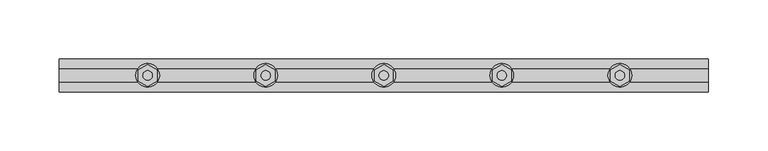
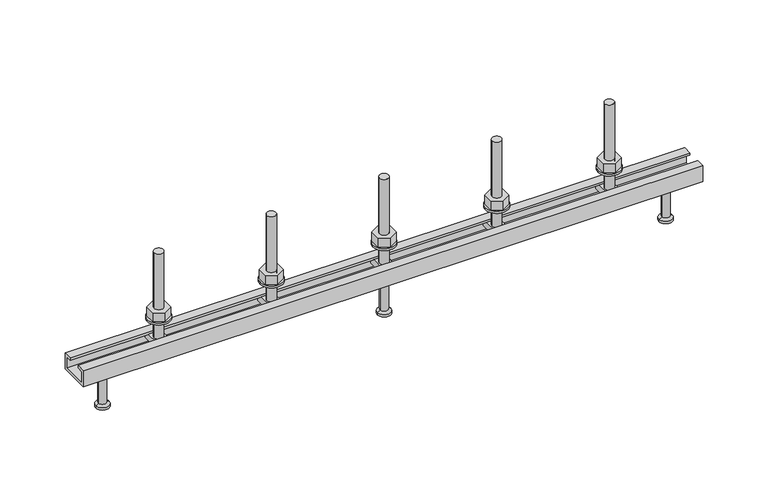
"""IFC4 building model written with IfcOpenShell, lengths in millimetres: fastener geometry, JTA-K JORDAHL® AnchorChannels : JTA-K L=550 mm."""

from ifc_helpers import new_model, si_unit, point, frame, frame_2d, origin, place, context, project, spatial, polyline, circle_curve, trimmed, segment, composite_curve, outline, extrude, source, transform, mapped, element, save
from ifc_brep_helpers import plane_surface, cylinder_surface, revolved_surface, advanced_brep


def fastener_40bd0cf4(model_context):
    return source(origin(), model_context, "Body", "SolidModel", [
        extrude(outline(polyline([(375.0, 9.2376043), (383.0, 4.6188022), (383.0, -4.6188022), (375.0, -9.2376043), (367.0, -4.6188022), (367.0, 4.6188022), (375.0, 9.2376043)]), holes=[composite_curve([segment(trimmed(circle_curve(frame_2d((375.0, 0.0)), 4.0), [point((371.0, 0.0))], [point((379.0, 0.0))], True, "CARTESIAN"), True, "CONTINUOUS"), segment(trimmed(circle_curve(frame_2d((375.0, 0.0)), 4.0), [point((379.0, 0.0))], [point((371.0, 0.0))], True, "CARTESIAN"), True, "CONTINUOUS")], self_intersect=False)]), frame((0.0, 0.0, 17.0), z_axis=(0.0, 0.0, 1.0), x_axis=(1.0, 0.0, 0.0)), (0.0, 0.0, 1.0), 8.4),
        extrude(outline(composite_curve([segment(trimmed(circle_curve(frame_2d((375.0, 0.0)), 10.0), [point((365.0, 0.0))], [point((385.0, 0.0))], False, "CARTESIAN"), True, "CONTINUOUS"), segment(trimmed(circle_curve(frame_2d((375.0, 0.0)), 10.0), [point((385.0, 0.0))], [point((365.0, 0.0))], False, "CARTESIAN"), True, "CONTINUOUS")], self_intersect=False), holes=[composite_curve([segment(trimmed(circle_curve(frame_2d((375.0, 0.0)), 5.25), [point((369.75, 0.0))], [point((380.25, 0.0))], True, "CARTESIAN"), True, "CONTINUOUS"), segment(trimmed(circle_curve(frame_2d((375.0, 0.0)), 5.25), [point((380.25, 0.0))], [point((369.75, 0.0))], True, "CARTESIAN"), True, "CONTINUOUS")], self_intersect=False)]), frame((0.0, 0.0, 15.0), z_axis=(0.0, 0.0, 1.0), x_axis=(1.0, 0.0, 0.0)), (0.0, 0.0, 1.0), 2.0),
        extrude(outline(polyline([(275.0, 9.2376043), (283.0, 4.6188022), (283.0, -4.6188022), (275.0, -9.2376043), (267.0, -4.6188022), (267.0, 4.6188022), (275.0, 9.2376043)]), holes=[composite_curve([segment(trimmed(circle_curve(frame_2d((275.0, 0.0)), 4.0), [point((271.0, 0.0))], [point((279.0, 0.0))], True, "CARTESIAN"), True, "CONTINUOUS"), segment(trimmed(circle_curve(frame_2d((275.0, 0.0)), 4.0), [point((279.0, 0.0))], [point((271.0, 0.0))], True, "CARTESIAN"), True, "CONTINUOUS")], self_intersect=False)]), frame((0.0, 0.0, 17.0), z_axis=(0.0, 0.0, 1.0), x_axis=(1.0, 0.0, 0.0)), (0.0, 0.0, 1.0), 8.4),
        extrude(outline(composite_curve([segment(trimmed(circle_curve(frame_2d((275.0, 0.0)), 10.0), [point((265.0, 0.0))], [point((285.0, 0.0))], False, "CARTESIAN"), True, "CONTINUOUS"), segment(trimmed(circle_curve(frame_2d((275.0, 0.0)), 10.0), [point((285.0, 0.0))], [point((265.0, 0.0))], False, "CARTESIAN"), True, "CONTINUOUS")], self_intersect=False), holes=[composite_curve([segment(trimmed(circle_curve(frame_2d((275.0, 0.0)), 5.25), [point((269.75, 0.0))], [point((280.25, 0.0))], True, "CARTESIAN"), True, "CONTINUOUS"), segment(trimmed(circle_curve(frame_2d((275.0, 0.0)), 5.25), [point((280.25, 0.0))], [point((269.75, 0.0))], True, "CARTESIAN"), True, "CONTINUOUS")], self_intersect=False)]), frame((0.0, 0.0, 15.0), z_axis=(0.0, 0.0, 1.0), x_axis=(1.0, 0.0, 0.0)), (0.0, 0.0, 1.0), 2.0),
        extrude(outline(polyline([(175.0, 9.2376043), (183.0, 4.6188022), (183.0, -4.6188022), (175.0, -9.2376043), (167.0, -4.6188022), (167.0, 4.6188022), (175.0, 9.2376043)]), holes=[composite_curve([segment(trimmed(circle_curve(frame_2d((175.0, 0.0)), 4.0), [point((171.0, 0.0))], [point((179.0, 0.0))], True, "CARTESIAN"), True, "CONTINUOUS"), segment(trimmed(circle_curve(frame_2d((175.0, 0.0)), 4.0), [point((179.0, 0.0))], [point((171.0, 0.0))], True, "CARTESIAN"), True, "CONTINUOUS")], self_intersect=False)]), frame((0.0, 0.0, 17.0), z_axis=(0.0, 0.0, 1.0), x_axis=(1.0, 0.0, 0.0)), (0.0, 0.0, 1.0), 8.4),
        extrude(outline(composite_curve([segment(trimmed(circle_curve(frame_2d((175.0, 0.0)), 10.0), [point((165.0, 0.0))], [point((185.0, 0.0))], False, "CARTESIAN"), True, "CONTINUOUS"), segment(trimmed(circle_curve(frame_2d((175.0, 0.0)), 10.0), [point((185.0, 0.0))], [point((165.0, 0.0))], False, "CARTESIAN"), True, "CONTINUOUS")], self_intersect=False), holes=[composite_curve([segment(trimmed(circle_curve(frame_2d((175.0, 0.0)), 5.25), [point((169.75, 0.0))], [point((180.25, 0.0))], True, "CARTESIAN"), True, "CONTINUOUS"), segment(trimmed(circle_curve(frame_2d((175.0, 0.0)), 5.25), [point((180.25, 0.0))], [point((169.75, 0.0))], True, "CARTESIAN"), True, "CONTINUOUS")], self_intersect=False)]), frame((0.0, 0.0, 15.0), z_axis=(0.0, 0.0, 1.0), x_axis=(1.0, 0.0, 0.0)), (0.0, 0.0, 1.0), 2.0),
        advanced_brep(
        [(380.5, 11.0, -2.3), (380.5, -11.0, -2.3), (380.5, -11.0, -8.3), (380.5, 11.0, -8.3), (369.5, 11.0, -2.3), (369.5, 11.0, -8.3), (369.5, -11.0, -8.3), (369.5, -11.0, -2.3), (379.0, 0.0, -2.3), (371.0, 0.0, -2.3), (371.0, 0.0, 77.7), (379.0, 0.0, 77.7)],
        [
            (0, 1),
            (1, 2),
            (2, 3),
            (3, 0),
            (4, 5),
            (5, 6),
            (6, 7),
            (7, 4),
            (0, 4),
            (7, 1),
            (8, 9, circle_curve(frame((375.0, 0.0, -2.3), z_axis=(0.0, 0.0, -1.0), x_axis=(1.0, 0.0, 0.0)), 4.0)),
            (9, 8, circle_curve(frame((375.0, 0.0, -2.3), z_axis=(0.0, 0.0, -1.0), x_axis=(1.0, 0.0, 0.0)), 4.0)),
            (6, 2),
            (5, 3),
            (10, 11, circle_curve(frame((375.0, 0.0, 77.7), z_axis=(0.0, 0.0, 1.0), x_axis=(1.0, 0.0, 0.0)), 4.0)),
            (11, 10, circle_curve(frame((375.0, 0.0, 77.7), z_axis=(0.0, 0.0, 1.0), x_axis=(1.0, 0.0, 0.0)), 4.0)),
            (10, 9),
            (8, 11),
        ],
        [
            plane_surface(frame((380.5, -11.0, -2.3), z_axis=(1.0, 0.0, 0.0), x_axis=(0.0, -1.0, 0.0))),
            plane_surface(frame((369.5, -11.0, -2.3), z_axis=(-1.0, 0.0, 0.0), x_axis=(0.0, 1.0, 0.0))),
            plane_surface(frame((380.5, 11.0, -2.3), z_axis=(0.0, 0.0, 1.0), x_axis=(-1.0, 0.0, 0.0))),
            plane_surface(frame((380.5, -11.0, -2.3), z_axis=(0.0, -1.0, 0.0), x_axis=(-1.0, 0.0, 0.0))),
            plane_surface(frame((380.5, -11.0, -8.3), z_axis=(0.0, 0.0, -1.0), x_axis=(-1.0, 0.0, 0.0))),
            plane_surface(frame((380.5, 11.0, -8.3), z_axis=(0.0, 1.0, 0.0), x_axis=(-1.0, 0.0, 0.0))),
            plane_surface(frame((379.0, 0.0, 77.7), z_axis=(0.0, 0.0, 1.0), x_axis=(0.0, 1.0, 0.0))),
            cylinder_surface(frame((375.0, 0.0, -2.3), z_axis=(0.0, 0.0, 1.0), x_axis=(1.0, 0.0, 0.0)), 4.0),
        ],
        [
            (0, [[1, 2, 3, 4]]),
            (1, [[5, 6, 7, 8]]),
            (2, [[-1, 9, -8, 10], [11, 12]]),
            (3, [[-2, -10, -7, 13]]),
            (4, [[-3, -13, -6, 14]]),
            (5, [[-4, -14, -5, -9]]),
            (6, [[15, 16]]),
            (7, [[-15, 17, -11, 18]]),
            (7, [[-16, -18, -12, -17]]),
        ],
    ),
        advanced_brep(
        [(280.5, 11.0, -2.3), (280.5, -11.0, -2.3), (280.5, -11.0, -8.3), (280.5, 11.0, -8.3), (269.5, 11.0, -2.3), (269.5, 11.0, -8.3), (269.5, -11.0, -8.3), (269.5, -11.0, -2.3), (279.0, 0.0, -2.3), (271.0, 0.0, -2.3), (271.0, 0.0, 77.7), (279.0, 0.0, 77.7)],
        [
            (0, 1),
            (1, 2),
            (2, 3),
            (3, 0),
            (4, 5),
            (5, 6),
            (6, 7),
            (7, 4),
            (0, 4),
            (7, 1),
            (8, 9, circle_curve(frame((275.0, 0.0, -2.3), z_axis=(0.0, 0.0, -1.0), x_axis=(1.0, 0.0, 0.0)), 4.0)),
            (9, 8, circle_curve(frame((275.0, 0.0, -2.3), z_axis=(0.0, 0.0, -1.0), x_axis=(1.0, 0.0, 0.0)), 4.0)),
            (6, 2),
            (5, 3),
            (10, 11, circle_curve(frame((275.0, 0.0, 77.7), z_axis=(0.0, 0.0, 1.0), x_axis=(1.0, 0.0, 0.0)), 4.0)),
            (11, 10, circle_curve(frame((275.0, 0.0, 77.7), z_axis=(0.0, 0.0, 1.0), x_axis=(1.0, 0.0, 0.0)), 4.0)),
            (10, 9),
            (8, 11),
        ],
        [
            plane_surface(frame((280.5, -11.0, -2.3), z_axis=(1.0, 0.0, 0.0), x_axis=(0.0, -1.0, 0.0))),
            plane_surface(frame((269.5, -11.0, -2.3), z_axis=(-1.0, 0.0, 0.0), x_axis=(0.0, 1.0, 0.0))),
            plane_surface(frame((280.5, 11.0, -2.3), z_axis=(0.0, 0.0, 1.0), x_axis=(-1.0, 0.0, 0.0))),
            plane_surface(frame((280.5, -11.0, -2.3), z_axis=(0.0, -1.0, 0.0), x_axis=(-1.0, 0.0, 0.0))),
            plane_surface(frame((280.5, -11.0, -8.3), z_axis=(0.0, 0.0, -1.0), x_axis=(-1.0, 0.0, 0.0))),
            plane_surface(frame((280.5, 11.0, -8.3), z_axis=(0.0, 1.0, 0.0), x_axis=(-1.0, 0.0, 0.0))),
            plane_surface(frame((279.0, 0.0, 77.7), z_axis=(0.0, 0.0, 1.0), x_axis=(0.0, 1.0, 0.0))),
            cylinder_surface(frame((275.0, 0.0, -2.3), z_axis=(0.0, 0.0, 1.0), x_axis=(1.0, 0.0, 0.0)), 4.0),
        ],
        [
            (0, [[1, 2, 3, 4]]),
            (1, [[5, 6, 7, 8]]),
            (2, [[-1, 9, -8, 10], [11, 12]]),
            (3, [[-2, -10, -7, 13]]),
            (4, [[-3, -13, -6, 14]]),
            (5, [[-4, -14, -5, -9]]),
            (6, [[15, 16]]),
            (7, [[-15, 17, -11, 18]]),
            (7, [[-16, -18, -12, -17]]),
        ],
    ),
        advanced_brep(
        [(180.5, 11.0, -2.3), (180.5, -11.0, -2.3), (180.5, -11.0, -8.3), (180.5, 11.0, -8.3), (169.5, 11.0, -2.3), (169.5, 11.0, -8.3), (169.5, -11.0, -8.3), (169.5, -11.0, -2.3), (179.0, 0.0, -2.3), (171.0, 0.0, -2.3), (171.0, 0.0, 77.7), (179.0, 0.0, 77.7)],
        [
            (0, 1),
            (1, 2),
            (2, 3),
            (3, 0),
            (4, 5),
            (5, 6),
            (6, 7),
            (7, 4),
            (0, 4),
            (7, 1),
            (8, 9, circle_curve(frame((175.0, 0.0, -2.3), z_axis=(0.0, 0.0, -1.0), x_axis=(1.0, 0.0, 0.0)), 4.0)),
            (9, 8, circle_curve(frame((175.0, 0.0, -2.3), z_axis=(0.0, 0.0, -1.0), x_axis=(1.0, 0.0, 0.0)), 4.0)),
            (6, 2),
            (5, 3),
            (10, 11, circle_curve(frame((175.0, 0.0, 77.7), z_axis=(0.0, 0.0, 1.0), x_axis=(1.0, 0.0, 0.0)), 4.0)),
            (11, 10, circle_curve(frame((175.0, 0.0, 77.7), z_axis=(0.0, 0.0, 1.0), x_axis=(1.0, 0.0, 0.0)), 4.0)),
            (10, 9),
            (8, 11),
        ],
        [
            plane_surface(frame((180.5, -11.0, -2.3), z_axis=(1.0, 0.0, 0.0), x_axis=(0.0, -1.0, 0.0))),
            plane_surface(frame((169.5, -11.0, -2.3), z_axis=(-1.0, 0.0, 0.0), x_axis=(0.0, 1.0, 0.0))),
            plane_surface(frame((180.5, 11.0, -2.3), z_axis=(0.0, 0.0, 1.0), x_axis=(-1.0, 0.0, 0.0))),
            plane_surface(frame((180.5, -11.0, -2.3), z_axis=(0.0, -1.0, 0.0), x_axis=(-1.0, 0.0, 0.0))),
            plane_surface(frame((180.5, -11.0, -8.3), z_axis=(0.0, 0.0, -1.0), x_axis=(-1.0, 0.0, 0.0))),
            plane_surface(frame((180.5, 11.0, -8.3), z_axis=(0.0, 1.0, 0.0), x_axis=(-1.0, 0.0, 0.0))),
            plane_surface(frame((179.0, 0.0, 77.7), z_axis=(0.0, 0.0, 1.0), x_axis=(0.0, 1.0, 0.0))),
            cylinder_surface(frame((175.0, 0.0, -2.3), z_axis=(0.0, 0.0, 1.0), x_axis=(1.0, 0.0, 0.0)), 4.0),
        ],
        [
            (0, [[1, 2, 3, 4]]),
            (1, [[5, 6, 7, 8]]),
            (2, [[-1, 9, -8, 10], [11, 12]]),
            (3, [[-2, -10, -7, 13]]),
            (4, [[-3, -13, -6, 14]]),
            (5, [[-4, -14, -5, -9]]),
            (6, [[15, 16]]),
            (7, [[-15, 17, -11, 18]]),
            (7, [[-16, -18, -12, -17]]),
        ],
    ),
        advanced_brep(
        [(275.0, 0.0, -15.0), (285.5, 0.0, -15.0), (264.5, 0.0, -15.0), (269.0, 0.0, -50.0), (281.0, 0.0, -50.0), (275.0, 0.0, -50.0), (269.0, 0.0, -48.0), (281.0, 0.0, -48.0), (271.5, 0.0, -46.5566243), (278.5, 0.0, -46.5566243), (271.5, 0.0, -17.5), (278.5, 0.0, -17.5)],
        [
            (0, 1),
            (1, 2, circle_curve(frame((275.0, 0.0, -15.0), z_axis=(0.0, 0.0, 1.0), x_axis=(1.0, 0.0, 0.0)), 10.5)),
            (2, 0),
            (2, 1, circle_curve(frame((275.0, 0.0, -15.0), z_axis=(0.0, 0.0, 1.0), x_axis=(1.0, 0.0, 0.0)), 10.5)),
            (3, 4, circle_curve(frame((275.0, 0.0, -50.0), z_axis=(0.0, 0.0, -1.0), x_axis=(1.0, 0.0, 0.0)), 6.0)),
            (4, 5),
            (5, 3),
            (4, 3, circle_curve(frame((275.0, 0.0, -50.0), z_axis=(0.0, 0.0, -1.0), x_axis=(1.0, 0.0, 0.0)), 6.0)),
            (6, 7, circle_curve(frame((275.0, 0.0, -48.0), z_axis=(0.0, 0.0, -1.0), x_axis=(1.0, 0.0, 0.0)), 6.0)),
            (7, 4),
            (3, 6),
            (7, 6, circle_curve(frame((275.0, 0.0, -48.0), z_axis=(0.0, 0.0, -1.0), x_axis=(1.0, 0.0, 0.0)), 6.0)),
            (8, 9, circle_curve(frame((275.0, 0.0, -46.5566243), z_axis=(0.0, 0.0, -1.0), x_axis=(1.0, 0.0, 0.0)), 3.5)),
            (9, 7),
            (6, 8),
            (9, 8, circle_curve(frame((275.0, 0.0, -46.5566243), z_axis=(0.0, 0.0, -1.0), x_axis=(1.0, 0.0, 0.0)), 3.5)),
            (10, 11, circle_curve(frame((275.0, 0.0, -17.5), z_axis=(0.0, 0.0, -1.0), x_axis=(1.0, 0.0, 0.0)), 3.5)),
            (11, 9),
            (8, 10),
            (11, 10, circle_curve(frame((275.0, 0.0, -17.5), z_axis=(0.0, 0.0, -1.0), x_axis=(1.0, 0.0, 0.0)), 3.5)),
            (1, 11),
            (10, 2),
        ],
        [
            plane_surface(frame((275.0, 0.0, -15.0), z_axis=(0.0, 0.0, 1.0), x_axis=(1.0, 0.0, 0.0))),
            plane_surface(frame((275.0, 0.0, -50.0), z_axis=(0.0, 0.0, -1.0), x_axis=(1.0, 0.0, 0.0))),
            cylinder_surface(frame((275.0, 0.0, 2249.3150031), z_axis=(0.0, 0.0, 1.0), x_axis=(1.0, 0.0, 0.0)), 6.0),
            revolved_surface(polyline([(281.0, 0.0, -48.0), (278.5, 0.0, -46.5566243)]), (275.0, 0.0, 2249.3150031), (0.0, 0.0, 1.0)),
            cylinder_surface(frame((275.0, 0.0, 2249.3150031), z_axis=(0.0, 0.0, 1.0), x_axis=(1.0, 0.0, 0.0)), 3.5),
            revolved_surface(polyline([(278.5, 0.0, -17.5), (285.5, 0.0, -15.0)]), (275.0, 0.0, 2249.3150031), (0.0, 0.0, 1.0)),
        ],
        [
            (0, [[1, 2, 3]]),
            (0, [[-3, 4, -1]]),
            (1, [[5, 6, 7]]),
            (1, [[8, -7, -6]]),
            (2, [[9, 10, -5, 11]]),
            (2, [[12, -11, -8, -10]]),
            (3, [[13, 14, -9, 15]]),
            (3, [[16, -15, -12, -14]]),
            (4, [[17, 18, -13, 19]]),
            (4, [[20, -19, -16, -18]]),
            (5, [[-2, 21, -17, 22]]),
            (5, [[-4, -22, -20, -21]]),
        ],
    ),
        extrude(outline(polyline([(475.0, 9.2376043), (483.0, 4.6188022), (483.0, -4.6188022), (475.0, -9.2376043), (467.0, -4.6188022), (467.0, 4.6188022), (475.0, 9.2376043)]), holes=[composite_curve([segment(trimmed(circle_curve(frame_2d((475.0, 0.0)), 4.0), [point((471.0, 0.0))], [point((479.0, 0.0))], True, "CARTESIAN"), True, "CONTINUOUS"), segment(trimmed(circle_curve(frame_2d((475.0, 0.0)), 4.0), [point((479.0, 0.0))], [point((471.0, 0.0))], True, "CARTESIAN"), True, "CONTINUOUS")], self_intersect=False)]), frame((0.0, 0.0, 17.0), z_axis=(0.0, 0.0, 1.0), x_axis=(1.0, 0.0, 0.0)), (0.0, 0.0, 1.0), 8.4),
        extrude(outline(composite_curve([segment(trimmed(circle_curve(frame_2d((475.0, 0.0)), 10.0), [point((465.0, 0.0))], [point((485.0, 0.0))], False, "CARTESIAN"), True, "CONTINUOUS"), segment(trimmed(circle_curve(frame_2d((475.0, 0.0)), 10.0), [point((485.0, 0.0))], [point((465.0, 0.0))], False, "CARTESIAN"), True, "CONTINUOUS")], self_intersect=False), holes=[composite_curve([segment(trimmed(circle_curve(frame_2d((475.0, 0.0)), 5.25), [point((469.75, 0.0))], [point((480.25, 0.0))], True, "CARTESIAN"), True, "CONTINUOUS"), segment(trimmed(circle_curve(frame_2d((475.0, 0.0)), 5.25), [point((480.25, 0.0))], [point((469.75, 0.0))], True, "CARTESIAN"), True, "CONTINUOUS")], self_intersect=False)]), frame((0.0, 0.0, 15.0), z_axis=(0.0, 0.0, 1.0), x_axis=(1.0, 0.0, 0.0)), (0.0, 0.0, 1.0), 2.0),
        extrude(outline(polyline([(75.0, 9.2376043), (83.0, 4.6188022), (83.0, -4.6188022), (75.0, -9.2376043), (67.0, -4.6188022), (67.0, 4.6188022), (75.0, 9.2376043)]), holes=[composite_curve([segment(trimmed(circle_curve(frame_2d((75.0, 0.0)), 4.0), [point((71.0, 0.0))], [point((79.0, 0.0))], True, "CARTESIAN"), True, "CONTINUOUS"), segment(trimmed(circle_curve(frame_2d((75.0, 0.0)), 4.0), [point((79.0, 0.0))], [point((71.0, 0.0))], True, "CARTESIAN"), True, "CONTINUOUS")], self_intersect=False)]), frame((0.0, 0.0, 17.0), z_axis=(0.0, 0.0, 1.0), x_axis=(1.0, 0.0, 0.0)), (0.0, 0.0, 1.0), 8.4),
        extrude(outline(composite_curve([segment(trimmed(circle_curve(frame_2d((75.0, 0.0)), 10.0), [point((65.0, 0.0))], [point((85.0, 0.0))], False, "CARTESIAN"), True, "CONTINUOUS"), segment(trimmed(circle_curve(frame_2d((75.0, 0.0)), 10.0), [point((85.0, 0.0))], [point((65.0, 0.0))], False, "CARTESIAN"), True, "CONTINUOUS")], self_intersect=False), holes=[composite_curve([segment(trimmed(circle_curve(frame_2d((75.0, 0.0)), 5.25), [point((69.75, 0.0))], [point((80.25, 0.0))], True, "CARTESIAN"), True, "CONTINUOUS"), segment(trimmed(circle_curve(frame_2d((75.0, 0.0)), 5.25), [point((80.25, 0.0))], [point((69.75, 0.0))], True, "CARTESIAN"), True, "CONTINUOUS")], self_intersect=False)]), frame((0.0, 0.0, 15.0), z_axis=(0.0, 0.0, 1.0), x_axis=(1.0, 0.0, 0.0)), (0.0, 0.0, 1.0), 2.0),
        advanced_brep(
        [(480.5, 11.0, -2.3), (480.5, -11.0, -2.3), (480.5, -11.0, -8.3), (480.5, 11.0, -8.3), (469.5, 11.0, -2.3), (469.5, 11.0, -8.3), (469.5, -11.0, -8.3), (469.5, -11.0, -2.3), (479.0, 0.0, -2.3), (471.0, 0.0, -2.3), (471.0, 0.0, 77.7), (479.0, 0.0, 77.7)],
        [
            (0, 1),
            (1, 2),
            (2, 3),
            (3, 0),
            (4, 5),
            (5, 6),
            (6, 7),
            (7, 4),
            (0, 4),
            (7, 1),
            (8, 9, circle_curve(frame((475.0, 0.0, -2.3), z_axis=(0.0, 0.0, -1.0), x_axis=(1.0, 0.0, 0.0)), 4.0)),
            (9, 8, circle_curve(frame((475.0, 0.0, -2.3), z_axis=(0.0, 0.0, -1.0), x_axis=(1.0, 0.0, 0.0)), 4.0)),
            (6, 2),
            (5, 3),
            (10, 11, circle_curve(frame((475.0, 0.0, 77.7), z_axis=(0.0, 0.0, 1.0), x_axis=(1.0, 0.0, 0.0)), 4.0)),
            (11, 10, circle_curve(frame((475.0, 0.0, 77.7), z_axis=(0.0, 0.0, 1.0), x_axis=(1.0, 0.0, 0.0)), 4.0)),
            (10, 9),
            (8, 11),
        ],
        [
            plane_surface(frame((480.5, -11.0, -2.3), z_axis=(1.0, 0.0, 0.0), x_axis=(0.0, -1.0, 0.0))),
            plane_surface(frame((469.5, -11.0, -2.3), z_axis=(-1.0, 0.0, 0.0), x_axis=(0.0, 1.0, 0.0))),
            plane_surface(frame((480.5, 11.0, -2.3), z_axis=(0.0, 0.0, 1.0), x_axis=(-1.0, 0.0, 0.0))),
            plane_surface(frame((480.5, -11.0, -2.3), z_axis=(0.0, -1.0, 0.0), x_axis=(-1.0, 0.0, 0.0))),
            plane_surface(frame((480.5, -11.0, -8.3), z_axis=(0.0, 0.0, -1.0), x_axis=(-1.0, 0.0, 0.0))),
            plane_surface(frame((480.5, 11.0, -8.3), z_axis=(0.0, 1.0, 0.0), x_axis=(-1.0, 0.0, 0.0))),
            plane_surface(frame((479.0, 0.0, 77.7), z_axis=(0.0, 0.0, 1.0), x_axis=(0.0, 1.0, 0.0))),
            cylinder_surface(frame((475.0, 0.0, -2.3), z_axis=(0.0, 0.0, 1.0), x_axis=(1.0, 0.0, 0.0)), 4.0),
        ],
        [
            (0, [[1, 2, 3, 4]]),
            (1, [[5, 6, 7, 8]]),
            (2, [[-1, 9, -8, 10], [11, 12]]),
            (3, [[-2, -10, -7, 13]]),
            (4, [[-3, -13, -6, 14]]),
            (5, [[-4, -14, -5, -9]]),
            (6, [[15, 16]]),
            (7, [[-15, 17, -11, 18]]),
            (7, [[-16, -18, -12, -17]]),
        ],
    ),
        advanced_brep(
        [(80.5, 11.0, -2.3), (80.5, -11.0, -2.3), (80.5, -11.0, -8.3), (80.5, 11.0, -8.3), (69.5, 11.0, -2.3), (69.5, 11.0, -8.3), (69.5, -11.0, -8.3), (69.5, -11.0, -2.3), (79.0, 0.0, -2.3), (71.0, 0.0, -2.3), (71.0, 0.0, 77.7), (79.0, 0.0, 77.7)],
        [
            (0, 1),
            (1, 2),
            (2, 3),
            (3, 0),
            (4, 5),
            (5, 6),
            (6, 7),
            (7, 4),
            (0, 4),
            (7, 1),
            (8, 9, circle_curve(frame((75.0, 0.0, -2.3), z_axis=(0.0, 0.0, -1.0), x_axis=(1.0, 0.0, 0.0)), 4.0)),
            (9, 8, circle_curve(frame((75.0, 0.0, -2.3), z_axis=(0.0, 0.0, -1.0), x_axis=(1.0, 0.0, 0.0)), 4.0)),
            (6, 2),
            (5, 3),
            (10, 11, circle_curve(frame((75.0, 0.0, 77.7), z_axis=(0.0, 0.0, 1.0), x_axis=(1.0, 0.0, 0.0)), 4.0)),
            (11, 10, circle_curve(frame((75.0, 0.0, 77.7), z_axis=(0.0, 0.0, 1.0), x_axis=(1.0, 0.0, 0.0)), 4.0)),
            (10, 9),
            (8, 11),
        ],
        [
            plane_surface(frame((80.5, -11.0, -2.3), z_axis=(1.0, 0.0, 0.0), x_axis=(0.0, -1.0, 0.0))),
            plane_surface(frame((69.5, -11.0, -2.3), z_axis=(-1.0, 0.0, 0.0), x_axis=(0.0, 1.0, 0.0))),
            plane_surface(frame((80.5, 11.0, -2.3), z_axis=(0.0, 0.0, 1.0), x_axis=(-1.0, 0.0, 0.0))),
            plane_surface(frame((80.5, -11.0, -2.3), z_axis=(0.0, -1.0, 0.0), x_axis=(-1.0, 0.0, 0.0))),
            plane_surface(frame((80.5, -11.0, -8.3), z_axis=(0.0, 0.0, -1.0), x_axis=(-1.0, 0.0, 0.0))),
            plane_surface(frame((80.5, 11.0, -8.3), z_axis=(0.0, 1.0, 0.0), x_axis=(-1.0, 0.0, 0.0))),
            plane_surface(frame((79.0, 0.0, 77.7), z_axis=(0.0, 0.0, 1.0), x_axis=(0.0, 1.0, 0.0))),
            cylinder_surface(frame((75.0, 0.0, -2.3), z_axis=(0.0, 0.0, 1.0), x_axis=(1.0, 0.0, 0.0)), 4.0),
        ],
        [
            (0, [[1, 2, 3, 4]]),
            (1, [[5, 6, 7, 8]]),
            (2, [[-1, 9, -8, 10], [11, 12]]),
            (3, [[-2, -10, -7, 13]]),
            (4, [[-3, -13, -6, 14]]),
            (5, [[-4, -14, -5, -9]]),
            (6, [[15, 16]]),
            (7, [[-15, 17, -11, 18]]),
            (7, [[-16, -18, -12, -17]]),
        ],
    ),
        advanced_brep(
        [(525.0, 0.0, -15.0), (535.5, 0.0, -15.0), (514.5, 0.0, -15.0), (519.0, 0.0, -50.0), (531.0, 0.0, -50.0), (525.0, 0.0, -50.0), (519.0, 0.0, -48.0), (531.0, 0.0, -48.0), (521.5, 0.0, -46.5566243), (528.5, 0.0, -46.5566243), (521.5, 0.0, -17.5), (528.5, 0.0, -17.5)],
        [
            (0, 1),
            (1, 2, circle_curve(frame((525.0, 0.0, -15.0), z_axis=(0.0, 0.0, 1.0), x_axis=(1.0, 0.0, 0.0)), 10.5)),
            (2, 0),
            (2, 1, circle_curve(frame((525.0, 0.0, -15.0), z_axis=(0.0, 0.0, 1.0), x_axis=(1.0, 0.0, 0.0)), 10.5)),
            (3, 4, circle_curve(frame((525.0, 0.0, -50.0), z_axis=(0.0, 0.0, -1.0), x_axis=(1.0, 0.0, 0.0)), 6.0)),
            (4, 5),
            (5, 3),
            (4, 3, circle_curve(frame((525.0, 0.0, -50.0), z_axis=(0.0, 0.0, -1.0), x_axis=(1.0, 0.0, 0.0)), 6.0)),
            (6, 7, circle_curve(frame((525.0, 0.0, -48.0), z_axis=(0.0, 0.0, -1.0), x_axis=(1.0, 0.0, 0.0)), 6.0)),
            (7, 4),
            (3, 6),
            (7, 6, circle_curve(frame((525.0, 0.0, -48.0), z_axis=(0.0, 0.0, -1.0), x_axis=(1.0, 0.0, 0.0)), 6.0)),
            (8, 9, circle_curve(frame((525.0, 0.0, -46.5566243), z_axis=(0.0, 0.0, -1.0), x_axis=(1.0, 0.0, 0.0)), 3.5)),
            (9, 7),
            (6, 8),
            (9, 8, circle_curve(frame((525.0, 0.0, -46.5566243), z_axis=(0.0, 0.0, -1.0), x_axis=(1.0, 0.0, 0.0)), 3.5)),
            (10, 11, circle_curve(frame((525.0, 0.0, -17.5), z_axis=(0.0, 0.0, -1.0), x_axis=(1.0, 0.0, 0.0)), 3.5)),
            (11, 9),
            (8, 10),
            (11, 10, circle_curve(frame((525.0, 0.0, -17.5), z_axis=(0.0, 0.0, -1.0), x_axis=(1.0, 0.0, 0.0)), 3.5)),
            (1, 11),
            (10, 2),
        ],
        [
            plane_surface(frame((525.0, 0.0, -15.0), z_axis=(0.0, 0.0, 1.0), x_axis=(1.0, 0.0, 0.0))),
            plane_surface(frame((525.0, 0.0, -50.0), z_axis=(0.0, 0.0, -1.0), x_axis=(1.0, 0.0, 0.0))),
            cylinder_surface(frame((525.0, 0.0, 2249.3150031), z_axis=(0.0, 0.0, 1.0), x_axis=(1.0, 0.0, 0.0)), 6.0),
            revolved_surface(polyline([(531.0, 0.0, -48.0), (528.5, 0.0, -46.5566243)]), (525.0, 0.0, 2249.3150031), (0.0, 0.0, 1.0)),
            cylinder_surface(frame((525.0, 0.0, 2249.3150031), z_axis=(0.0, 0.0, 1.0), x_axis=(1.0, 0.0, 0.0)), 3.5),
            revolved_surface(polyline([(528.5, 0.0, -17.5), (535.5, 0.0, -15.0)]), (525.0, 0.0, 2249.3150031), (0.0, 0.0, 1.0)),
        ],
        [
            (0, [[1, 2, 3]]),
            (0, [[-3, 4, -1]]),
            (1, [[5, 6, 7]]),
            (1, [[8, -7, -6]]),
            (2, [[9, 10, -5, 11]]),
            (2, [[12, -11, -8, -10]]),
            (3, [[13, 14, -9, 15]]),
            (3, [[16, -15, -12, -14]]),
            (4, [[17, 18, -13, 19]]),
            (4, [[20, -19, -16, -18]]),
            (5, [[-2, 21, -17, 22]]),
            (5, [[-4, -22, -20, -21]]),
        ],
    ),
        advanced_brep(
        [(25.0, 0.0, -15.0), (35.5, 0.0, -15.0), (14.5, 0.0, -15.0), (19.0, 0.0, -50.0), (31.0, 0.0, -50.0), (25.0, 0.0, -50.0), (19.0, 0.0, -48.0), (31.0, 0.0, -48.0), (21.5, 0.0, -46.5566243), (28.5, 0.0, -46.5566243), (21.5, 0.0, -17.5), (28.5, 0.0, -17.5)],
        [
            (0, 1),
            (1, 2, circle_curve(frame((25.0, 0.0, -15.0), z_axis=(0.0, 0.0, 1.0), x_axis=(1.0, 0.0, 0.0)), 10.5)),
            (2, 0),
            (2, 1, circle_curve(frame((25.0, 0.0, -15.0), z_axis=(0.0, 0.0, 1.0), x_axis=(1.0, 0.0, 0.0)), 10.5)),
            (3, 4, circle_curve(frame((25.0, 0.0, -50.0), z_axis=(0.0, 0.0, -1.0), x_axis=(1.0, 0.0, 0.0)), 6.0)),
            (4, 5),
            (5, 3),
            (4, 3, circle_curve(frame((25.0, 0.0, -50.0), z_axis=(0.0, 0.0, -1.0), x_axis=(1.0, 0.0, 0.0)), 6.0)),
            (6, 7, circle_curve(frame((25.0, 0.0, -48.0), z_axis=(0.0, 0.0, -1.0), x_axis=(1.0, 0.0, 0.0)), 6.0)),
            (7, 4),
            (3, 6),
            (7, 6, circle_curve(frame((25.0, 0.0, -48.0), z_axis=(0.0, 0.0, -1.0), x_axis=(1.0, 0.0, 0.0)), 6.0)),
            (8, 9, circle_curve(frame((25.0, 0.0, -46.5566243), z_axis=(0.0, 0.0, -1.0), x_axis=(1.0, 0.0, 0.0)), 3.5)),
            (9, 7),
            (6, 8),
            (9, 8, circle_curve(frame((25.0, 0.0, -46.5566243), z_axis=(0.0, 0.0, -1.0), x_axis=(1.0, 0.0, 0.0)), 3.5)),
            (10, 11, circle_curve(frame((25.0, 0.0, -17.5), z_axis=(0.0, 0.0, -1.0), x_axis=(1.0, 0.0, 0.0)), 3.5)),
            (11, 9),
            (8, 10),
            (11, 10, circle_curve(frame((25.0, 0.0, -17.5), z_axis=(0.0, 0.0, -1.0), x_axis=(1.0, 0.0, 0.0)), 3.5)),
            (1, 11),
            (10, 2),
        ],
        [
            plane_surface(frame((25.0, 0.0, -15.0), z_axis=(0.0, 0.0, 1.0), x_axis=(1.0, 0.0, 0.0))),
            plane_surface(frame((25.0, 0.0, -50.0), z_axis=(0.0, 0.0, -1.0), x_axis=(1.0, 0.0, 0.0))),
            cylinder_surface(frame((25.0, 0.0, 2249.3150031), z_axis=(0.0, 0.0, 1.0), x_axis=(1.0, 0.0, 0.0)), 6.0),
            revolved_surface(polyline([(31.0, 0.0, -48.0), (28.5, 0.0, -46.5566243)]), (25.0, 0.0, 2249.3150031), (0.0, 0.0, 1.0)),
            cylinder_surface(frame((25.0, 0.0, 2249.3150031), z_axis=(0.0, 0.0, 1.0), x_axis=(1.0, 0.0, 0.0)), 3.5),
            revolved_surface(polyline([(28.5, 0.0, -17.5), (35.5, 0.0, -15.0)]), (25.0, 0.0, 2249.3150031), (0.0, 0.0, 1.0)),
        ],
        [
            (0, [[1, 2, 3]]),
            (0, [[-3, 4, -1]]),
            (1, [[5, 6, 7]]),
            (1, [[8, -7, -6]]),
            (2, [[9, 10, -5, 11]]),
            (2, [[12, -11, -8, -10]]),
            (3, [[13, 14, -9, 15]]),
            (3, [[16, -15, -12, -14]]),
            (4, [[17, 18, -13, 19]]),
            (4, [[20, -19, -16, -18]]),
            (5, [[-2, 21, -17, 22]]),
            (5, [[-4, -22, -20, -21]]),
        ],
    ),
        extrude(outline(polyline([(14.0, 0.0), (14.0, -15.0), (-14.0, -15.0), (-14.0, 0.0), (-6.0, 0.0), (-6.0, -2.3), (-11.7, -2.3), (-11.7, -12.7), (11.7, -12.7), (11.7, -2.3), (6.0, -2.3), (6.0, 0.0), (14.0, 0.0)])), frame((0.0, 0.0, 0.0), z_axis=(1.0, 0.0, 0.0), x_axis=(0.0, 1.0, 0.0)), (0.0, 0.0, 1.0), 550.0),
    ])


if __name__ == "__main__":
    model = new_model("IFC4")
    model_context = context("Model", 3, world=origin())
    ifc_project = project(units=[si_unit("LENGTHUNIT", "METRE", prefix="MILLI")], contexts=[model_context])
    site = spatial("IfcSite", under=ifc_project)
    building = spatial("IfcBuilding", under=site)
    placement = place(None, origin())
    fastener_shape = fastener_40bd0cf4(model_context)
    element("IfcFastener", 1, ObjectType="JTA-K JORDAHL® AnchorChannels : JTA-K L=550 mm", at=placement, inside=building, context=model_context, shape_type="MappedRepresentation", body=[
        mapped(fastener_shape, transform((0.0, 0.0, 0.0), x_axis=(1.0, 0.0, 0.0), y_axis=(0.0, 1.0, 0.0), z_axis=(0.0, 0.0, 1.0))),
    ])
    save(model, "model.ifc")
